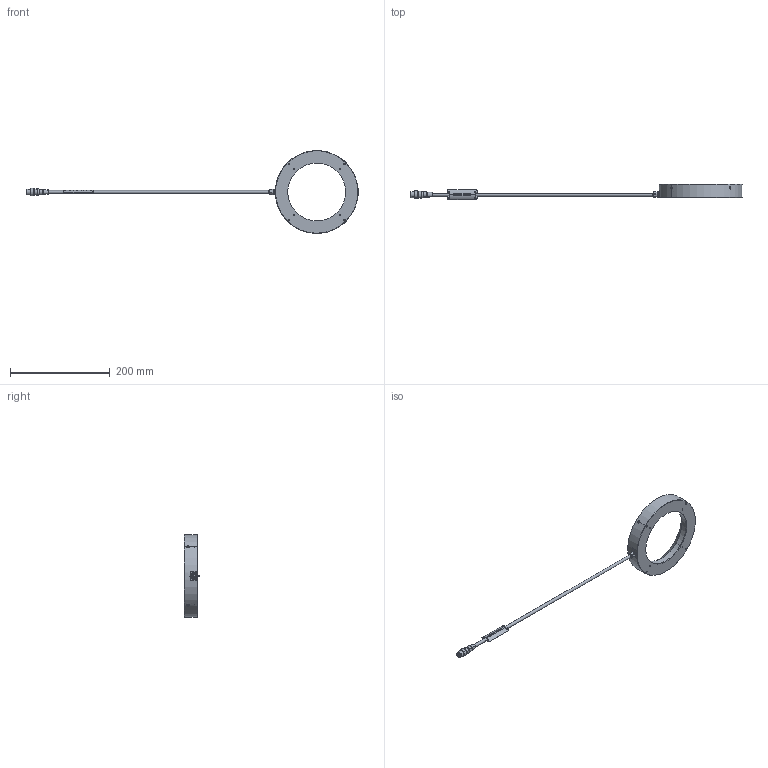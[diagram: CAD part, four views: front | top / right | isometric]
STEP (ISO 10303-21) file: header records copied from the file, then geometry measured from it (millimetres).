
FILE_DESCRIPTION (( 'STEP AP214' ), '1' );
FILE_NAME ('CV-HR-166X116R-M12_A22400A0100101A-001.STEP', '2024-04-10T07:39:50', ( '' ), ( '' ), 'SwSTEP 2.0', 'SolidWorks 2020', '' );
FILE_SCHEMA (( 'AUTOMOTIVE_DESIGN' ));
Length unit declared in the file: millimetre
Products named in the file (1): CV-HR-166X116R-M12_A22400A0100101A-001
Bounding box: 665.18 x 30.5 x 165.43 mm (x, y, z)
Volume: 282526.8 mm3; surface area: 57593.1 mm2
Topology: 2 solids, 10 shells, 396 faces, 1119 edges, 741 vertices
Faces by surface type: cylinder 183, plane 124, cone 81, torus 8
Entity records: 20694 total; most frequent: CARTESIAN_POINT 6231, ORIENTED_EDGE 2174, DIRECTION 2031, EDGE_CURVE 1087, AXIS2_PLACEMENT_3D 783, VERTEX_POINT 741, VECTOR 465, LINE 465
